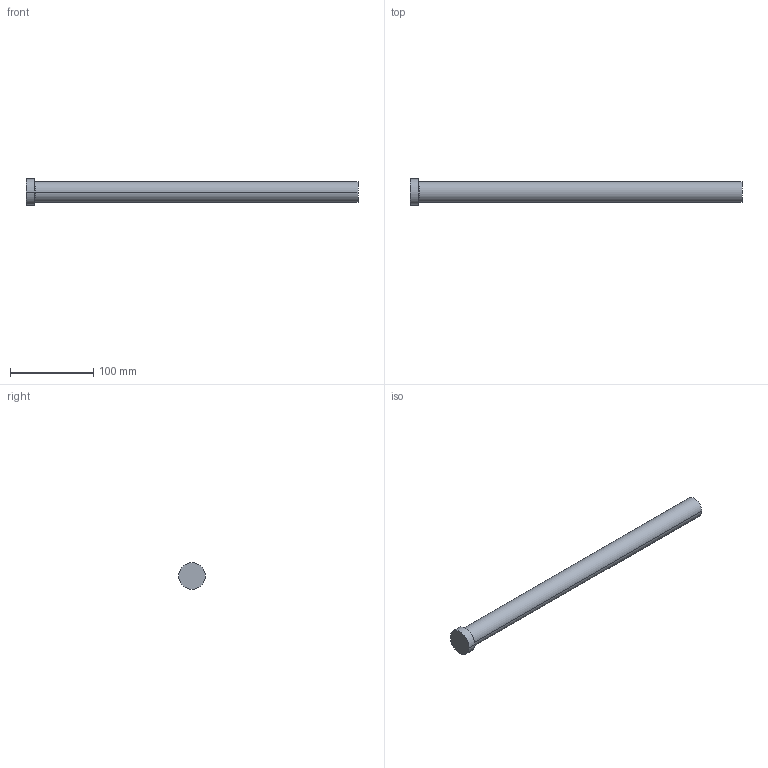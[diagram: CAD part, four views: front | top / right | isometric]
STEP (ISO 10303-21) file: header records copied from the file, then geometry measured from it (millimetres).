
FILE_DESCRIPTION (( 'STEP AP214' ), '1' );
FILE_NAME ('A-25x400.STEP', '2020-05-29T16:27:33', ( 'August' ), ( '' ), 'SwSTEP 2.0', 'SolidWorks 2018', '' );
FILE_SCHEMA (( 'AUTOMOTIVE_DESIGN' ));
Length unit declared in the file: millimetre
Products named in the file (1): A-25x400
Bounding box: 400 x 32 x 32 mm (x, y, z)
Volume: 199500.4 mm3; surface area: 33211.1 mm2
Topology: 1 solids, 1 shells, 9 faces, 16 edges, 10 vertices
Faces by surface type: cylinder 4, plane 3, torus 2
Entity records: 260 total; most frequent: DIRECTION 48, CARTESIAN_POINT 36, ORIENTED_EDGE 32, AXIS2_PLACEMENT_3D 22, EDGE_CURVE 16, CIRCLE 12, VERTEX_POINT 10, EDGE_LOOP 10
